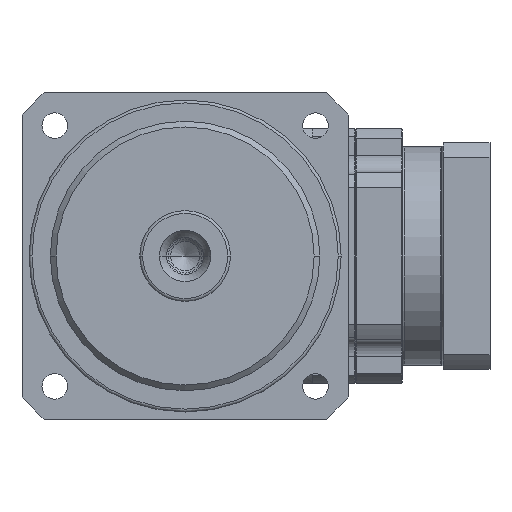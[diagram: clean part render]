
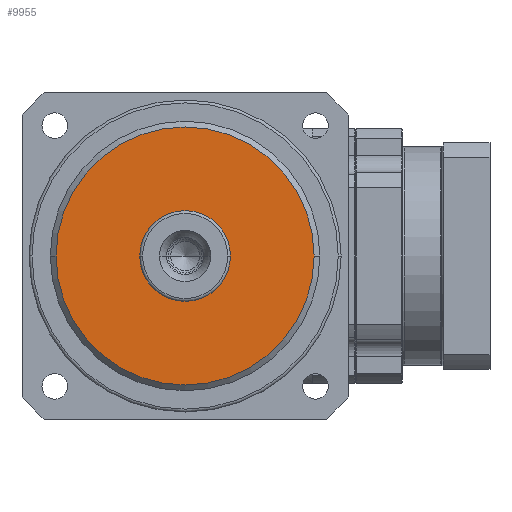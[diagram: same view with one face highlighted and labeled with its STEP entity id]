
A CAD part, left-side view. The second image highlights one B-rep face of the part: STEP entity #9955.
In plain terms, the highlighted planar face has unit normal (-1, 0, 0) as drawn and (0, 0, -1) by its records, which use the part's own axes.
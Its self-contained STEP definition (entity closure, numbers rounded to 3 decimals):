
#8758=CARTESIAN_POINT('',(0.,0.,-14.));
#8759=DIRECTION('',(0.,0.,1.));
#8760=DIRECTION('',(0.,-1.,0.));
#8761=AXIS2_PLACEMENT_3D('',#8758,#8759,#8760);
#8763=CARTESIAN_POINT('',(0.,0.,-14.));
#8764=DIRECTION('',(0.,0.,-1.));
#8765=DIRECTION('',(0.,-1.,0.));
#8766=AXIS2_PLACEMENT_3D('',#8763,#8764,#8765);
#8776=CARTESIAN_POINT('',(0.,0.,-14.));
#8777=DIRECTION('',(0.,0.,-1.));
#8778=DIRECTION('',(0.,-1.,0.));
#8779=AXIS2_PLACEMENT_3D('',#8776,#8777,#8778);
#8781=CARTESIAN_POINT('',(0.,0.,-14.));
#8782=DIRECTION('',(0.,0.,1.));
#8783=DIRECTION('',(0.,-1.,0.));
#8784=AXIS2_PLACEMENT_3D('',#8781,#8782,#8783);
#8913=CARTESIAN_POINT('',(0.,-45.5,-14.));
#8915=VERTEX_POINT('',#8913);
#8916=CARTESIAN_POINT('',(0.,-16.,-14.));
#8918=VERTEX_POINT('',#8916);
#8927=CARTESIAN_POINT('',(0.,45.5,-14.));
#8929=VERTEX_POINT('',#8927);
#8930=CARTESIAN_POINT('',(0.,16.,-14.));
#8932=VERTEX_POINT('',#8930);
#9940=CARTESIAN_POINT('',(0.,0.,-14.));
#9941=DIRECTION('',(0.,0.,1.));
#9942=DIRECTION('',(0.,1.,0.));
#9943=AXIS2_PLACEMENT_3D('',#9940,#9941,#9942);
#9944=PLANE('',#9943);
#9945=ORIENTED_EDGE('',*,*,#9935,.T.);
#9946=ORIENTED_EDGE('',*,*,#9919,.F.);
#9947=EDGE_LOOP('',(#9945,#9946));
#9948=FACE_OUTER_BOUND('',#9947,.F.);
#9950=ORIENTED_EDGE('',*,*,#9949,.T.);
#9952=ORIENTED_EDGE('',*,*,#9951,.F.);
#9953=EDGE_LOOP('',(#9950,#9952));
#9954=FACE_BOUND('',#9953,.F.);
#9955=ADVANCED_FACE('',(#9948,#9954),#9944,.F.);
#8762=CIRCLE('',#8761,45.5);
#8767=CIRCLE('',#8766,45.5);
#8780=CIRCLE('',#8779,16.);
#8785=CIRCLE('',#8784,16.);
#9919=EDGE_CURVE('',#8915,#8929,#8767,.T.);
#9935=EDGE_CURVE('',#8915,#8929,#8762,.T.);
#9949=EDGE_CURVE('',#8918,#8932,#8780,.T.);
#9951=EDGE_CURVE('',#8918,#8932,#8785,.T.);
